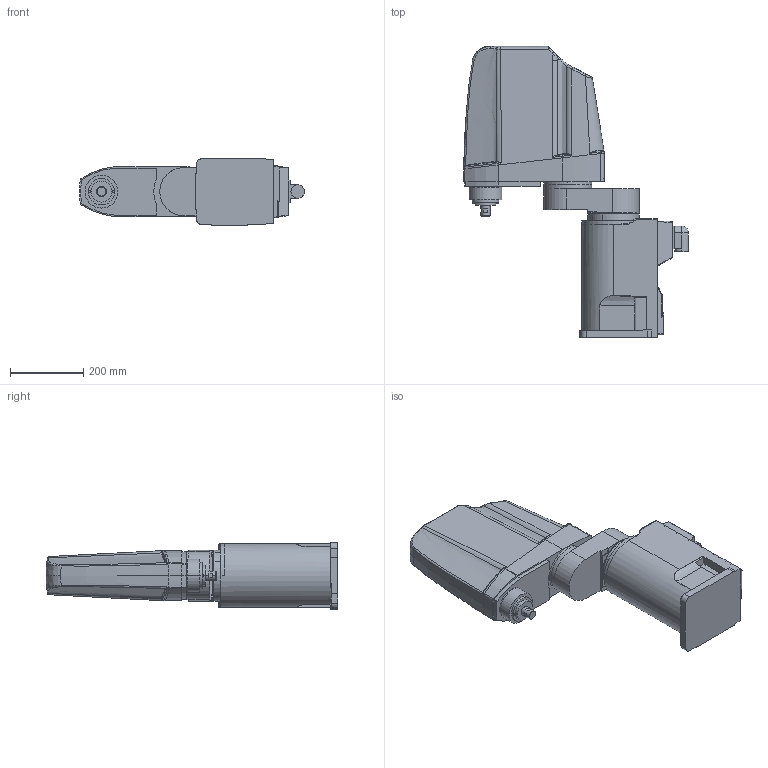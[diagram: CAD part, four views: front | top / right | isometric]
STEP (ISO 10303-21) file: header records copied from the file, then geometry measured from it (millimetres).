
FILE_DESCRIPTION((''),'2;1');
FILE_NAME('RH-6FH3520C-3D-ASSY_ASM_ASM','2012-04-25T',('AL99964'),(''),'PRO/ENGINEER BY PARAMETRIC TECHNOLOGY CORPORATION, 2010160','PRO/ENGINEER BY PARAMETRIC TECHNOLOGY CORPORATION, 2010160','');
FILE_SCHEMA(('CONFIG_CONTROL_DESIGN'));
Length unit declared in the file: millimetre
Products named in the file (7): RH-3-6FH_BASE_24; RH-3-6FH_NO1ARM_35_8; RH-6FH_NO2ARM_4; RH-6FH_SHAFT_3; RH-6FH_JABARA_CLEAN_200; BASE_BACK; RH-6FH3520C-3D-ASSY_ASM_ASM
Assembly tree (6 placements, depth 2):
  RH-6FH3520C-3D-ASSY_ASM_ASM
    RH-3-6FH_BASE_24
    RH-3-6FH_NO1ARM_35_8
    RH-6FH_NO2ARM_4
    RH-6FH_SHAFT_3
    RH-6FH_JABARA_CLEAN_200
    BASE_BACK
Bounding box: 615 x 798 x 182 mm (x, y, z)
Volume: 27951223.4 mm3; surface area: 1036050.5 mm2
Topology: 6 solids, 6 shells, 521 faces, 1266 edges, 774 vertices
Faces by surface type: cylinder 172, plane 145, bspline 145, torus 24, sphere 14, cone 13, extrusion 6, revolution 2
Entity records: 30142 total; most frequent: CARTESIAN_POINT 18964, ORIENTED_EDGE 2510, DIRECTION 1994, EDGE_CURVE 1255, VERTEX_POINT 774, AXIS2_PLACEMENT_3D 771, EDGE_LOOP 553, FACE_OUTER_BOUND 521
